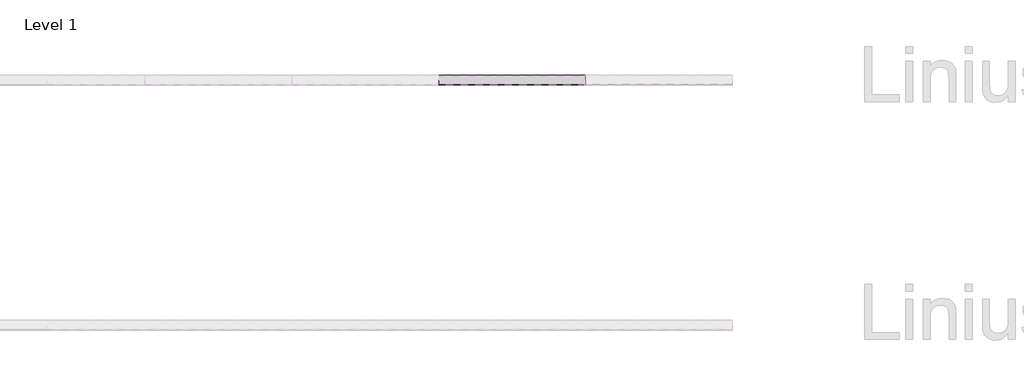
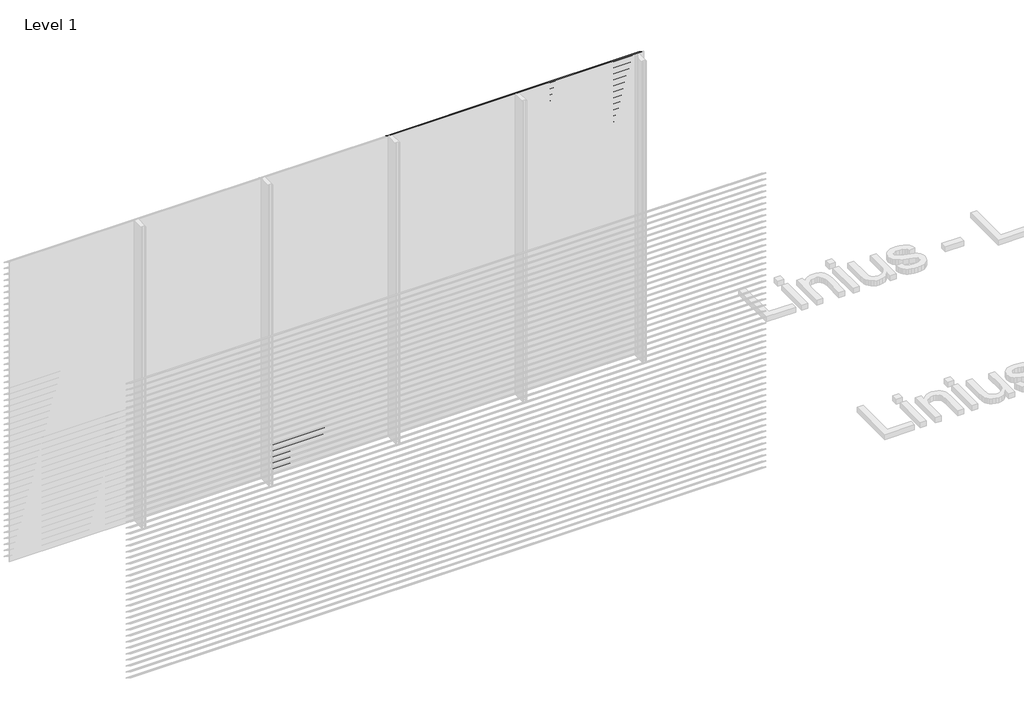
# One storey, part 16 of 153: 84 proxies.
"""IFC4 building model written with IfcOpenShell, lengths in millimetres."""

from ifc_helpers import new_model, si_unit, frame, origin, place, context, project, spatial, polyline, outline, extrude, element, save

model = new_model("IFC4")

# Units and contexts
model_context = context("Model", 3, world=origin())
ifc_project = project(units=[si_unit("LENGTHUNIT", "METRE", prefix="MILLI")], contexts=[model_context])

# Site, building, storey
site = spatial("IfcSite", under=ifc_project)
building = spatial("IfcBuilding", under=site)
storey = spatial("IfcBuildingStorey", under=building, Name="Level 1", Elevation=0.0)

# Proxies
placement = place(None, origin())
element("IfcBuildingElementProxy", 1, Name="Wall Sweeps", at=placement, inside=storey, context=model_context, shape_type="SweptSolid", body=[
    extrude(outline(polyline([(14061.0540136, 246.0), (14061.0540136, 240.0), (14059.8040136, 240.7216933), (14059.8040136, 245.2538091), (13983.0540136, 293.9915103), (13983.0540136, 300.0), (13984.3040136, 300.0), (13984.3040136, 294.7377012), (14061.0540136, 246.0)])), frame((2866.6208097, 0.0, 0.0), z_axis=(1.0, 0.0, 0.0), x_axis=(0.0, 1.0, 0.0)), (0.0, 0.0, 1.0), 1199.9999999),
])
element("IfcBuildingElementProxy", 2, Name="Wall Sweeps", at=placement, inside=storey, context=model_context, shape_type="SweptSolid", body=[
    extrude(outline(polyline([(14061.0540136, 186.0), (14061.0540136, 180.0), (14059.8040136, 180.7216933), (14059.8040136, 185.2538091), (13983.0540136, 233.9915103), (13983.0540136, 240.0), (13984.3040136, 240.0), (13984.3040136, 234.7377012), (14061.0540136, 186.0)])), frame((2866.6208097, 0.0, 0.0), z_axis=(1.0, 0.0, 0.0), x_axis=(0.0, 1.0, 0.0)), (0.0, 0.0, 1.0), 1199.9999999),
])
element("IfcBuildingElementProxy", 3, Name="Wall Sweeps", at=placement, inside=storey, context=model_context, shape_type="SweptSolid", body=[
    extrude(outline(polyline([(14061.0540136, 126.0), (14061.0540136, 120.0), (14059.8040136, 120.7216933), (14059.8040136, 125.2538091), (13983.0540136, 173.9915103), (13983.0540136, 180.0), (13984.3040136, 180.0), (13984.3040136, 174.7377012), (14061.0540136, 126.0)])), frame((2866.6208097, 0.0, 0.0), z_axis=(1.0, 0.0, 0.0), x_axis=(0.0, 1.0, 0.0)), (0.0, 0.0, 1.0), 1199.9999999),
])
element("IfcBuildingElementProxy", 4, Name="Wall Sweeps", at=placement, inside=storey, context=model_context, shape_type="SweptSolid", body=[
    extrude(outline(polyline([(14061.0540136, 66.0), (14061.0540136, 60.0), (14059.8040136, 60.7216933), (14059.8040136, 65.2538091), (13983.0540136, 113.9915103), (13983.0540136, 120.0), (13984.3040136, 120.0), (13984.3040136, 114.7377012), (14061.0540136, 66.0)])), frame((2866.6208097, 0.0, 0.0), z_axis=(1.0, 0.0, 0.0), x_axis=(0.0, 1.0, 0.0)), (0.0, 0.0, 1.0), 1199.9999999),
])
element("IfcBuildingElementProxy", 5, Name="Wall Sweeps", at=placement, inside=storey, context=model_context, shape_type="SweptSolid", body=[
    extrude(outline(polyline([(14061.0540136, 6.0), (14061.0540136, 0.0), (14059.8040136, 0.7216933), (14059.8040136, 5.2538091), (13983.0540136, 53.9915103), (13983.0540136, 60.0), (13984.3040136, 60.0), (13984.3040136, 54.7377012), (14061.0540136, 6.0)])), frame((2866.6208097, 0.0, 0.0), z_axis=(1.0, 0.0, 0.0), x_axis=(0.0, 1.0, 0.0)), (0.0, 0.0, 1.0), 1199.9999999),
])
element("IfcBuildingElementProxy", 6, Name="Wall Sweeps", at=placement, inside=storey, context=model_context, shape_type="SweptSolid", body=[
    extrude(outline(polyline([(14061.0540136, 2946.0), (14061.0540136, 2940.0), (14059.8040136, 2940.7216933), (14059.8040136, 2945.2538091), (13983.0540136, 2993.9915103), (13983.0540136, 3000.0), (13984.3040136, 3000.0), (13984.3040136, 2994.7377012), (14061.0540136, 2946.0)])), frame((4066.6208096, 0.0, 0.0), z_axis=(1.0, 0.0, 0.0), x_axis=(0.0, 1.0, 0.0)), (0.0, 0.0, 1.0), 1199.9999999),
])
element("IfcBuildingElementProxy", 7, Name="Wall Sweeps", at=placement, inside=storey, context=model_context, shape_type="SweptSolid", body=[
    extrude(outline(polyline([(14061.0540136, 2886.0), (14061.0540136, 2880.0), (14059.8040136, 2880.7216933), (14059.8040136, 2885.2538091), (13983.0540136, 2933.9915103), (13983.0540136, 2940.0), (13984.3040136, 2940.0), (13984.3040136, 2934.7377012), (14061.0540136, 2886.0)])), frame((4066.6208096, 0.0, 0.0), z_axis=(1.0, 0.0, 0.0), x_axis=(0.0, 1.0, 0.0)), (0.0, 0.0, 1.0), 1199.9999999),
])
element("IfcBuildingElementProxy", 8, Name="Wall Sweeps", at=placement, inside=storey, context=model_context, shape_type="SweptSolid", body=[
    extrude(outline(polyline([(14061.0540136, 2826.0), (14061.0540136, 2820.0), (14059.8040136, 2820.7216933), (14059.8040136, 2825.2538091), (13983.0540136, 2873.9915103), (13983.0540136, 2880.0), (13984.3040136, 2880.0), (13984.3040136, 2874.7377012), (14061.0540136, 2826.0)])), frame((4066.6208096, 0.0, 0.0), z_axis=(1.0, 0.0, 0.0), x_axis=(0.0, 1.0, 0.0)), (0.0, 0.0, 1.0), 1199.9999999),
])
element("IfcBuildingElementProxy", 9, Name="Wall Sweeps", at=placement, inside=storey, context=model_context, shape_type="SweptSolid", body=[
    extrude(outline(polyline([(14061.0540136, 2766.0), (14061.0540136, 2760.0), (14059.8040136, 2760.7216933), (14059.8040136, 2765.2538091), (13983.0540136, 2813.9915103), (13983.0540136, 2820.0), (13984.3040136, 2820.0), (13984.3040136, 2814.7377012), (14061.0540136, 2766.0)])), frame((4066.6208096, 0.0, 0.0), z_axis=(1.0, 0.0, 0.0), x_axis=(0.0, 1.0, 0.0)), (0.0, 0.0, 1.0), 1199.9999999),
])
element("IfcBuildingElementProxy", 10, Name="Wall Sweeps", at=placement, inside=storey, context=model_context, shape_type="SweptSolid", body=[
    extrude(outline(polyline([(14061.0540136, 2706.0), (14061.0540136, 2700.0), (14059.8040136, 2700.7216933), (14059.8040136, 2705.2538091), (13983.0540136, 2753.9915103), (13983.0540136, 2760.0), (13984.3040136, 2760.0), (13984.3040136, 2754.7377012), (14061.0540136, 2706.0)])), frame((4066.6208096, 0.0, 0.0), z_axis=(1.0, 0.0, 0.0), x_axis=(0.0, 1.0, 0.0)), (0.0, 0.0, 1.0), 1199.9999999),
])
element("IfcBuildingElementProxy", 11, Name="Wall Sweeps", at=placement, inside=storey, context=model_context, shape_type="SweptSolid", body=[
    extrude(outline(polyline([(14061.0540136, 2646.0), (14061.0540136, 2640.0), (14059.8040136, 2640.7216933), (14059.8040136, 2645.2538091), (13983.0540136, 2693.9915103), (13983.0540136, 2700.0), (13984.3040136, 2700.0), (13984.3040136, 2694.7377012), (14061.0540136, 2646.0)])), frame((4066.6208096, 0.0, 0.0), z_axis=(1.0, 0.0, 0.0), x_axis=(0.0, 1.0, 0.0)), (0.0, 0.0, 1.0), 1199.9999999),
])
element("IfcBuildingElementProxy", 12, Name="Wall Sweeps", at=placement, inside=storey, context=model_context, shape_type="SweptSolid", body=[
    extrude(outline(polyline([(14061.0540136, 2586.0), (14061.0540136, 2580.0), (14059.8040136, 2580.7216933), (14059.8040136, 2585.2538091), (13983.0540136, 2633.9915103), (13983.0540136, 2640.0), (13984.3040136, 2640.0), (13984.3040136, 2634.7377012), (14061.0540136, 2586.0)])), frame((4066.6208096, 0.0, 0.0), z_axis=(1.0, 0.0, 0.0), x_axis=(0.0, 1.0, 0.0)), (0.0, 0.0, 1.0), 1199.9999999),
])
element("IfcBuildingElementProxy", 13, Name="Wall Sweeps", at=placement, inside=storey, context=model_context, shape_type="SweptSolid", body=[
    extrude(outline(polyline([(14061.0540136, 2526.0), (14061.0540136, 2520.0), (14059.8040136, 2520.7216933), (14059.8040136, 2525.2538091), (13983.0540136, 2573.9915103), (13983.0540136, 2580.0), (13984.3040136, 2580.0), (13984.3040136, 2574.7377012), (14061.0540136, 2526.0)])), frame((4066.6208096, 0.0, 0.0), z_axis=(1.0, 0.0, 0.0), x_axis=(0.0, 1.0, 0.0)), (0.0, 0.0, 1.0), 1199.9999999),
])
element("IfcBuildingElementProxy", 14, Name="Wall Sweeps", at=placement, inside=storey, context=model_context, shape_type="SweptSolid", body=[
    extrude(outline(polyline([(14061.0540136, 2466.0), (14061.0540136, 2460.0), (14059.8040136, 2460.7216933), (14059.8040136, 2465.2538091), (13983.0540136, 2513.9915103), (13983.0540136, 2520.0), (13984.3040136, 2520.0), (13984.3040136, 2514.7377012), (14061.0540136, 2466.0)])), frame((4066.6208096, 0.0, 0.0), z_axis=(1.0, 0.0, 0.0), x_axis=(0.0, 1.0, 0.0)), (0.0, 0.0, 1.0), 1199.9999999),
])
element("IfcBuildingElementProxy", 15, Name="Wall Sweeps", at=placement, inside=storey, context=model_context, shape_type="SweptSolid", body=[
    extrude(outline(polyline([(14061.0540136, 2406.0), (14061.0540136, 2400.0), (14059.8040136, 2400.7216933), (14059.8040136, 2405.2538091), (13983.0540136, 2453.9915103), (13983.0540136, 2460.0), (13984.3040136, 2460.0), (13984.3040136, 2454.7377012), (14061.0540136, 2406.0)])), frame((4066.6208096, 0.0, 0.0), z_axis=(1.0, 0.0, 0.0), x_axis=(0.0, 1.0, 0.0)), (0.0, 0.0, 1.0), 1199.9999999),
])
element("IfcBuildingElementProxy", 16, Name="Wall Sweeps", at=placement, inside=storey, context=model_context, shape_type="SweptSolid", body=[
    extrude(outline(polyline([(14061.0540136, 2346.0), (14061.0540136, 2340.0), (14059.8040136, 2340.7216933), (14059.8040136, 2345.2538091), (13983.0540136, 2393.9915103), (13983.0540136, 2400.0), (13984.3040136, 2400.0), (13984.3040136, 2394.7377012), (14061.0540136, 2346.0)])), frame((4066.6208096, 0.0, 0.0), z_axis=(1.0, 0.0, 0.0), x_axis=(0.0, 1.0, 0.0)), (0.0, 0.0, 1.0), 1199.9999999),
])
element("IfcBuildingElementProxy", 17, Name="Wall Sweeps", at=placement, inside=storey, context=model_context, shape_type="SweptSolid", body=[
    extrude(outline(polyline([(14061.0540136, 2286.0), (14061.0540136, 2280.0), (14059.8040136, 2280.7216933), (14059.8040136, 2285.2538091), (13983.0540136, 2333.9915103), (13983.0540136, 2340.0), (13984.3040136, 2340.0), (13984.3040136, 2334.7377012), (14061.0540136, 2286.0)])), frame((4066.6208096, 0.0, 0.0), z_axis=(1.0, 0.0, 0.0), x_axis=(0.0, 1.0, 0.0)), (0.0, 0.0, 1.0), 1199.9999999),
])
element("IfcBuildingElementProxy", 18, Name="Wall Sweeps", at=placement, inside=storey, context=model_context, shape_type="SweptSolid", body=[
    extrude(outline(polyline([(14061.0540136, 2226.0), (14061.0540136, 2220.0), (14059.8040136, 2220.7216933), (14059.8040136, 2225.2538091), (13983.0540136, 2273.9915103), (13983.0540136, 2280.0), (13984.3040136, 2280.0), (13984.3040136, 2274.7377012), (14061.0540136, 2226.0)])), frame((4066.6208096, 0.0, 0.0), z_axis=(1.0, 0.0, 0.0), x_axis=(0.0, 1.0, 0.0)), (0.0, 0.0, 1.0), 1199.9999999),
])
element("IfcBuildingElementProxy", 19, Name="Wall Sweeps", at=placement, inside=storey, context=model_context, shape_type="SweptSolid", body=[
    extrude(outline(polyline([(14061.0540136, 2166.0), (14061.0540136, 2160.0), (14059.8040136, 2160.7216933), (14059.8040136, 2165.2538091), (13983.0540136, 2213.9915103), (13983.0540136, 2220.0), (13984.3040136, 2220.0), (13984.3040136, 2214.7377012), (14061.0540136, 2166.0)])), frame((4066.6208096, 0.0, 0.0), z_axis=(1.0, 0.0, 0.0), x_axis=(0.0, 1.0, 0.0)), (0.0, 0.0, 1.0), 1199.9999999),
])
element("IfcBuildingElementProxy", 20, Name="Wall Sweeps", at=placement, inside=storey, context=model_context, shape_type="SweptSolid", body=[
    extrude(outline(polyline([(14061.0540136, 2106.0), (14061.0540136, 2100.0), (14059.8040136, 2100.7216933), (14059.8040136, 2105.2538091), (13983.0540136, 2153.9915103), (13983.0540136, 2160.0), (13984.3040136, 2160.0), (13984.3040136, 2154.7377012), (14061.0540136, 2106.0)])), frame((4066.6208096, 0.0, 0.0), z_axis=(1.0, 0.0, 0.0), x_axis=(0.0, 1.0, 0.0)), (0.0, 0.0, 1.0), 1199.9999999),
])
element("IfcBuildingElementProxy", 21, Name="Wall Sweeps", at=placement, inside=storey, context=model_context, shape_type="SweptSolid", body=[
    extrude(outline(polyline([(14061.0540136, 2046.0), (14061.0540136, 2040.0), (14059.8040136, 2040.7216933), (14059.8040136, 2045.2538091), (13983.0540136, 2093.9915103), (13983.0540136, 2100.0), (13984.3040136, 2100.0), (13984.3040136, 2094.7377012), (14061.0540136, 2046.0)])), frame((4066.6208096, 0.0, 0.0), z_axis=(1.0, 0.0, 0.0), x_axis=(0.0, 1.0, 0.0)), (0.0, 0.0, 1.0), 1199.9999999),
])
element("IfcBuildingElementProxy", 22, Name="Wall Sweeps", at=placement, inside=storey, context=model_context, shape_type="SweptSolid", body=[
    extrude(outline(polyline([(14061.0540136, 1986.0), (14061.0540136, 1980.0), (14059.8040136, 1980.7216933), (14059.8040136, 1985.2538091), (13983.0540136, 2033.9915103), (13983.0540136, 2040.0), (13984.3040136, 2040.0), (13984.3040136, 2034.7377012), (14061.0540136, 1986.0)])), frame((4066.6208096, 0.0, 0.0), z_axis=(1.0, 0.0, 0.0), x_axis=(0.0, 1.0, 0.0)), (0.0, 0.0, 1.0), 1199.9999999),
])
element("IfcBuildingElementProxy", 23, Name="Wall Sweeps", at=placement, inside=storey, context=model_context, shape_type="SweptSolid", body=[
    extrude(outline(polyline([(14061.0540136, 1926.0), (14061.0540136, 1920.0), (14059.8040136, 1920.7216933), (14059.8040136, 1925.2538091), (13983.0540136, 1973.9915103), (13983.0540136, 1980.0), (13984.3040136, 1980.0), (13984.3040136, 1974.7377012), (14061.0540136, 1926.0)])), frame((4066.6208096, 0.0, 0.0), z_axis=(1.0, 0.0, 0.0), x_axis=(0.0, 1.0, 0.0)), (0.0, 0.0, 1.0), 1199.9999999),
])
element("IfcBuildingElementProxy", 24, Name="Wall Sweeps", at=placement, inside=storey, context=model_context, shape_type="SweptSolid", body=[
    extrude(outline(polyline([(14061.0540136, 1866.0), (14061.0540136, 1860.0), (14059.8040136, 1860.7216933), (14059.8040136, 1865.2538091), (13983.0540136, 1913.9915103), (13983.0540136, 1920.0), (13984.3040136, 1920.0), (13984.3040136, 1914.7377012), (14061.0540136, 1866.0)])), frame((4066.6208096, 0.0, 0.0), z_axis=(1.0, 0.0, 0.0), x_axis=(0.0, 1.0, 0.0)), (0.0, 0.0, 1.0), 1199.9999999),
])
element("IfcBuildingElementProxy", 25, Name="Wall Sweeps", at=placement, inside=storey, context=model_context, shape_type="SweptSolid", body=[
    extrude(outline(polyline([(14061.0540136, 1806.0), (14061.0540136, 1800.0), (14059.8040136, 1800.7216933), (14059.8040136, 1805.2538091), (13983.0540136, 1853.9915103), (13983.0540136, 1860.0), (13984.3040136, 1860.0), (13984.3040136, 1854.7377012), (14061.0540136, 1806.0)])), frame((4066.6208096, 0.0, 0.0), z_axis=(1.0, 0.0, 0.0), x_axis=(0.0, 1.0, 0.0)), (0.0, 0.0, 1.0), 1199.9999999),
])
element("IfcBuildingElementProxy", 26, Name="Wall Sweeps", at=placement, inside=storey, context=model_context, shape_type="SweptSolid", body=[
    extrude(outline(polyline([(14061.0540136, 1746.0), (14061.0540136, 1740.0), (14059.8040136, 1740.7216933), (14059.8040136, 1745.2538091), (13983.0540136, 1793.9915103), (13983.0540136, 1800.0), (13984.3040136, 1800.0), (13984.3040136, 1794.7377012), (14061.0540136, 1746.0)])), frame((4066.6208096, 0.0, 0.0), z_axis=(1.0, 0.0, 0.0), x_axis=(0.0, 1.0, 0.0)), (0.0, 0.0, 1.0), 1199.9999999),
])
element("IfcBuildingElementProxy", 27, Name="Wall Sweeps", at=placement, inside=storey, context=model_context, shape_type="SweptSolid", body=[
    extrude(outline(polyline([(14061.0540136, 1686.0), (14061.0540136, 1680.0), (14059.8040136, 1680.7216933), (14059.8040136, 1685.2538091), (13983.0540136, 1733.9915103), (13983.0540136, 1740.0), (13984.3040136, 1740.0), (13984.3040136, 1734.7377012), (14061.0540136, 1686.0)])), frame((4066.6208096, 0.0, 0.0), z_axis=(1.0, 0.0, 0.0), x_axis=(0.0, 1.0, 0.0)), (0.0, 0.0, 1.0), 1199.9999999),
])
element("IfcBuildingElementProxy", 28, Name="Wall Sweeps", at=placement, inside=storey, context=model_context, shape_type="SweptSolid", body=[
    extrude(outline(polyline([(14061.0540136, 1626.0), (14061.0540136, 1620.0), (14059.8040136, 1620.7216933), (14059.8040136, 1625.2538091), (13983.0540136, 1673.9915103), (13983.0540136, 1680.0), (13984.3040136, 1680.0), (13984.3040136, 1674.7377012), (14061.0540136, 1626.0)])), frame((4066.6208096, 0.0, 0.0), z_axis=(1.0, 0.0, 0.0), x_axis=(0.0, 1.0, 0.0)), (0.0, 0.0, 1.0), 1199.9999999),
])
element("IfcBuildingElementProxy", 29, Name="Wall Sweeps", at=placement, inside=storey, context=model_context, shape_type="SweptSolid", body=[
    extrude(outline(polyline([(14061.0540136, 1566.0), (14061.0540136, 1560.0), (14059.8040136, 1560.7216933), (14059.8040136, 1565.2538091), (13983.0540136, 1613.9915103), (13983.0540136, 1620.0), (13984.3040136, 1620.0), (13984.3040136, 1614.7377012), (14061.0540136, 1566.0)])), frame((4066.6208096, 0.0, 0.0), z_axis=(1.0, 0.0, 0.0), x_axis=(0.0, 1.0, 0.0)), (0.0, 0.0, 1.0), 1199.9999999),
])
element("IfcBuildingElementProxy", 30, Name="Wall Sweeps", at=placement, inside=storey, context=model_context, shape_type="SweptSolid", body=[
    extrude(outline(polyline([(14061.0540136, 1506.0), (14061.0540136, 1500.0), (14059.8040136, 1500.7216933), (14059.8040136, 1505.2538091), (13983.0540136, 1553.9915103), (13983.0540136, 1560.0), (13984.3040136, 1560.0), (13984.3040136, 1554.7377012), (14061.0540136, 1506.0)])), frame((4066.6208096, 0.0, 0.0), z_axis=(1.0, 0.0, 0.0), x_axis=(0.0, 1.0, 0.0)), (0.0, 0.0, 1.0), 1199.9999999),
])
element("IfcBuildingElementProxy", 31, Name="Wall Sweeps", at=placement, inside=storey, context=model_context, shape_type="SweptSolid", body=[
    extrude(outline(polyline([(14061.0540136, 1446.0), (14061.0540136, 1440.0), (14059.8040136, 1440.7216933), (14059.8040136, 1445.2538091), (13983.0540136, 1493.9915103), (13983.0540136, 1500.0), (13984.3040136, 1500.0), (13984.3040136, 1494.7377012), (14061.0540136, 1446.0)])), frame((4066.6208096, 0.0, 0.0), z_axis=(1.0, 0.0, 0.0), x_axis=(0.0, 1.0, 0.0)), (0.0, 0.0, 1.0), 1199.9999999),
])
element("IfcBuildingElementProxy", 32, Name="Wall Sweeps", at=placement, inside=storey, context=model_context, shape_type="SweptSolid", body=[
    extrude(outline(polyline([(14061.0540136, 1386.0), (14061.0540136, 1380.0), (14059.8040136, 1380.7216933), (14059.8040136, 1385.2538091), (13983.0540136, 1433.9915103), (13983.0540136, 1440.0), (13984.3040136, 1440.0), (13984.3040136, 1434.7377012), (14061.0540136, 1386.0)])), frame((4066.6208096, 0.0, 0.0), z_axis=(1.0, 0.0, 0.0), x_axis=(0.0, 1.0, 0.0)), (0.0, 0.0, 1.0), 1199.9999999),
])
element("IfcBuildingElementProxy", 33, Name="Wall Sweeps", at=placement, inside=storey, context=model_context, shape_type="SweptSolid", body=[
    extrude(outline(polyline([(14061.0540136, 1326.0), (14061.0540136, 1320.0), (14059.8040136, 1320.7216933), (14059.8040136, 1325.2538091), (13983.0540136, 1373.9915103), (13983.0540136, 1380.0), (13984.3040136, 1380.0), (13984.3040136, 1374.7377012), (14061.0540136, 1326.0)])), frame((4066.6208096, 0.0, 0.0), z_axis=(1.0, 0.0, 0.0), x_axis=(0.0, 1.0, 0.0)), (0.0, 0.0, 1.0), 1199.9999999),
])
element("IfcBuildingElementProxy", 34, Name="Wall Sweeps", at=placement, inside=storey, context=model_context, shape_type="SweptSolid", body=[
    extrude(outline(polyline([(14061.0540136, 1266.0), (14061.0540136, 1260.0), (14059.8040136, 1260.7216933), (14059.8040136, 1265.2538091), (13983.0540136, 1313.9915103), (13983.0540136, 1320.0), (13984.3040136, 1320.0), (13984.3040136, 1314.7377012), (14061.0540136, 1266.0)])), frame((4066.6208096, 0.0, 0.0), z_axis=(1.0, 0.0, 0.0), x_axis=(0.0, 1.0, 0.0)), (0.0, 0.0, 1.0), 1199.9999999),
])
element("IfcBuildingElementProxy", 35, Name="Wall Sweeps", at=placement, inside=storey, context=model_context, shape_type="SweptSolid", body=[
    extrude(outline(polyline([(14061.0540136, 1206.0), (14061.0540136, 1200.0), (14059.8040136, 1200.7216933), (14059.8040136, 1205.2538091), (13983.0540136, 1253.9915103), (13983.0540136, 1260.0), (13984.3040136, 1260.0), (13984.3040136, 1254.7377012), (14061.0540136, 1206.0)])), frame((4066.6208096, 0.0, 0.0), z_axis=(1.0, 0.0, 0.0), x_axis=(0.0, 1.0, 0.0)), (0.0, 0.0, 1.0), 1199.9999999),
])
element("IfcBuildingElementProxy", 36, Name="Wall Sweeps", at=placement, inside=storey, context=model_context, shape_type="SweptSolid", body=[
    extrude(outline(polyline([(14061.0540136, 1146.0), (14061.0540136, 1140.0), (14059.8040136, 1140.7216933), (14059.8040136, 1145.2538091), (13983.0540136, 1193.9915103), (13983.0540136, 1200.0), (13984.3040136, 1200.0), (13984.3040136, 1194.7377012), (14061.0540136, 1146.0)])), frame((4066.6208096, 0.0, 0.0), z_axis=(1.0, 0.0, 0.0), x_axis=(0.0, 1.0, 0.0)), (0.0, 0.0, 1.0), 1199.9999999),
])
element("IfcBuildingElementProxy", 37, Name="Wall Sweeps", at=placement, inside=storey, context=model_context, shape_type="SweptSolid", body=[
    extrude(outline(polyline([(14061.0540136, 1086.0), (14061.0540136, 1080.0), (14059.8040136, 1080.7216933), (14059.8040136, 1085.2538091), (13983.0540136, 1133.9915103), (13983.0540136, 1140.0), (13984.3040136, 1140.0), (13984.3040136, 1134.7377012), (14061.0540136, 1086.0)])), frame((4066.6208096, 0.0, 0.0), z_axis=(1.0, 0.0, 0.0), x_axis=(0.0, 1.0, 0.0)), (0.0, 0.0, 1.0), 1199.9999999),
])
element("IfcBuildingElementProxy", 38, Name="Wall Sweeps", at=placement, inside=storey, context=model_context, shape_type="SweptSolid", body=[
    extrude(outline(polyline([(14061.0540136, 1026.0), (14061.0540136, 1020.0), (14059.8040136, 1020.7216933), (14059.8040136, 1025.2538091), (13983.0540136, 1073.9915103), (13983.0540136, 1080.0), (13984.3040136, 1080.0), (13984.3040136, 1074.7377012), (14061.0540136, 1026.0)])), frame((4066.6208096, 0.0, 0.0), z_axis=(1.0, 0.0, 0.0), x_axis=(0.0, 1.0, 0.0)), (0.0, 0.0, 1.0), 1199.9999999),
])
element("IfcBuildingElementProxy", 39, Name="Wall Sweeps", at=placement, inside=storey, context=model_context, shape_type="SweptSolid", body=[
    extrude(outline(polyline([(14061.0540136, 966.0), (14061.0540136, 960.0), (14059.8040136, 960.7216933), (14059.8040136, 965.2538091), (13983.0540136, 1013.9915103), (13983.0540136, 1020.0), (13984.3040136, 1020.0), (13984.3040136, 1014.7377012), (14061.0540136, 966.0)])), frame((4066.6208096, 0.0, 0.0), z_axis=(1.0, 0.0, 0.0), x_axis=(0.0, 1.0, 0.0)), (0.0, 0.0, 1.0), 1199.9999999),
])
element("IfcBuildingElementProxy", 40, Name="Wall Sweeps", at=placement, inside=storey, context=model_context, shape_type="SweptSolid", body=[
    extrude(outline(polyline([(14061.0540136, 906.0), (14061.0540136, 900.0), (14059.8040136, 900.7216933), (14059.8040136, 905.2538091), (13983.0540136, 953.9915103), (13983.0540136, 960.0), (13984.3040136, 960.0), (13984.3040136, 954.7377012), (14061.0540136, 906.0)])), frame((4066.6208096, 0.0, 0.0), z_axis=(1.0, 0.0, 0.0), x_axis=(0.0, 1.0, 0.0)), (0.0, 0.0, 1.0), 1199.9999999),
])
element("IfcBuildingElementProxy", 41, Name="Wall Sweeps", at=placement, inside=storey, context=model_context, shape_type="SweptSolid", body=[
    extrude(outline(polyline([(14061.0540136, 846.0), (14061.0540136, 840.0), (14059.8040136, 840.7216933), (14059.8040136, 845.2538091), (13983.0540136, 893.9915103), (13983.0540136, 900.0), (13984.3040136, 900.0), (13984.3040136, 894.7377012), (14061.0540136, 846.0)])), frame((4066.6208096, 0.0, 0.0), z_axis=(1.0, 0.0, 0.0), x_axis=(0.0, 1.0, 0.0)), (0.0, 0.0, 1.0), 1199.9999999),
])
element("IfcBuildingElementProxy", 42, Name="Wall Sweeps", at=placement, inside=storey, context=model_context, shape_type="SweptSolid", body=[
    extrude(outline(polyline([(14061.0540136, 786.0), (14061.0540136, 780.0), (14059.8040136, 780.7216933), (14059.8040136, 785.2538091), (13983.0540136, 833.9915103), (13983.0540136, 840.0), (13984.3040136, 840.0), (13984.3040136, 834.7377012), (14061.0540136, 786.0)])), frame((4066.6208096, 0.0, 0.0), z_axis=(1.0, 0.0, 0.0), x_axis=(0.0, 1.0, 0.0)), (0.0, 0.0, 1.0), 1199.9999999),
])
element("IfcBuildingElementProxy", 43, Name="Wall Sweeps", at=placement, inside=storey, context=model_context, shape_type="SweptSolid", body=[
    extrude(outline(polyline([(14061.0540136, 726.0), (14061.0540136, 720.0), (14059.8040136, 720.7216933), (14059.8040136, 725.2538091), (13983.0540136, 773.9915103), (13983.0540136, 780.0), (13984.3040136, 780.0), (13984.3040136, 774.7377012), (14061.0540136, 726.0)])), frame((4066.6208096, 0.0, 0.0), z_axis=(1.0, 0.0, 0.0), x_axis=(0.0, 1.0, 0.0)), (0.0, 0.0, 1.0), 1199.9999999),
])
element("IfcBuildingElementProxy", 44, Name="Wall Sweeps", at=placement, inside=storey, context=model_context, shape_type="SweptSolid", body=[
    extrude(outline(polyline([(14061.0540136, 666.0), (14061.0540136, 660.0), (14059.8040136, 660.7216933), (14059.8040136, 665.2538091), (13983.0540136, 713.9915103), (13983.0540136, 720.0), (13984.3040136, 720.0), (13984.3040136, 714.7377012), (14061.0540136, 666.0)])), frame((4066.6208096, 0.0, 0.0), z_axis=(1.0, 0.0, 0.0), x_axis=(0.0, 1.0, 0.0)), (0.0, 0.0, 1.0), 1199.9999999),
])
element("IfcBuildingElementProxy", 45, Name="Wall Sweeps", at=placement, inside=storey, context=model_context, shape_type="SweptSolid", body=[
    extrude(outline(polyline([(14061.0540136, 606.0), (14061.0540136, 600.0), (14059.8040136, 600.7216933), (14059.8040136, 605.2538091), (13983.0540136, 653.9915103), (13983.0540136, 660.0), (13984.3040136, 660.0), (13984.3040136, 654.7377012), (14061.0540136, 606.0)])), frame((4066.6208096, 0.0, 0.0), z_axis=(1.0, 0.0, 0.0), x_axis=(0.0, 1.0, 0.0)), (0.0, 0.0, 1.0), 1199.9999999),
])
element("IfcBuildingElementProxy", 46, Name="Wall Sweeps", at=placement, inside=storey, context=model_context, shape_type="SweptSolid", body=[
    extrude(outline(polyline([(14061.0540136, 546.0), (14061.0540136, 540.0), (14059.8040136, 540.7216933), (14059.8040136, 545.2538091), (13983.0540136, 593.9915103), (13983.0540136, 600.0), (13984.3040136, 600.0), (13984.3040136, 594.7377012), (14061.0540136, 546.0)])), frame((4066.6208096, 0.0, 0.0), z_axis=(1.0, 0.0, 0.0), x_axis=(0.0, 1.0, 0.0)), (0.0, 0.0, 1.0), 1199.9999999),
])
element("IfcBuildingElementProxy", 47, Name="Wall Sweeps", at=placement, inside=storey, context=model_context, shape_type="SweptSolid", body=[
    extrude(outline(polyline([(14061.0540136, 486.0), (14061.0540136, 480.0), (14059.8040136, 480.7216933), (14059.8040136, 485.2538091), (13983.0540136, 533.9915103), (13983.0540136, 540.0), (13984.3040136, 540.0), (13984.3040136, 534.7377012), (14061.0540136, 486.0)])), frame((4066.6208096, 0.0, 0.0), z_axis=(1.0, 0.0, 0.0), x_axis=(0.0, 1.0, 0.0)), (0.0, 0.0, 1.0), 1199.9999999),
])
element("IfcBuildingElementProxy", 48, Name="Wall Sweeps", at=placement, inside=storey, context=model_context, shape_type="SweptSolid", body=[
    extrude(outline(polyline([(14061.0540136, 426.0), (14061.0540136, 420.0), (14059.8040136, 420.7216933), (14059.8040136, 425.2538091), (13983.0540136, 473.9915103), (13983.0540136, 480.0), (13984.3040136, 480.0), (13984.3040136, 474.7377012), (14061.0540136, 426.0)])), frame((4066.6208096, 0.0, 0.0), z_axis=(1.0, 0.0, 0.0), x_axis=(0.0, 1.0, 0.0)), (0.0, 0.0, 1.0), 1199.9999999),
])
element("IfcBuildingElementProxy", 49, Name="Wall Sweeps", at=placement, inside=storey, context=model_context, shape_type="SweptSolid", body=[
    extrude(outline(polyline([(14061.0540136, 366.0), (14061.0540136, 360.0), (14059.8040136, 360.7216933), (14059.8040136, 365.2538091), (13983.0540136, 413.9915103), (13983.0540136, 420.0), (13984.3040136, 420.0), (13984.3040136, 414.7377012), (14061.0540136, 366.0)])), frame((4066.6208096, 0.0, 0.0), z_axis=(1.0, 0.0, 0.0), x_axis=(0.0, 1.0, 0.0)), (0.0, 0.0, 1.0), 1199.9999999),
])
element("IfcBuildingElementProxy", 50, Name="Wall Sweeps", at=placement, inside=storey, context=model_context, shape_type="SweptSolid", body=[
    extrude(outline(polyline([(14061.0540136, 306.0), (14061.0540136, 300.0), (14059.8040136, 300.7216933), (14059.8040136, 305.2538091), (13983.0540136, 353.9915103), (13983.0540136, 360.0), (13984.3040136, 360.0), (13984.3040136, 354.7377012), (14061.0540136, 306.0)])), frame((4066.6208096, 0.0, 0.0), z_axis=(1.0, 0.0, 0.0), x_axis=(0.0, 1.0, 0.0)), (0.0, 0.0, 1.0), 1199.9999999),
])
element("IfcBuildingElementProxy", 51, Name="Wall Sweeps", at=placement, inside=storey, context=model_context, shape_type="SweptSolid", body=[
    extrude(outline(polyline([(14061.0540136, 246.0), (14061.0540136, 240.0), (14059.8040136, 240.7216933), (14059.8040136, 245.2538091), (13983.0540136, 293.9915103), (13983.0540136, 300.0), (13984.3040136, 300.0), (13984.3040136, 294.7377012), (14061.0540136, 246.0)])), frame((4066.6208096, 0.0, 0.0), z_axis=(1.0, 0.0, 0.0), x_axis=(0.0, 1.0, 0.0)), (0.0, 0.0, 1.0), 1199.9999999),
])
element("IfcBuildingElementProxy", 52, Name="Wall Sweeps", at=placement, inside=storey, context=model_context, shape_type="SweptSolid", body=[
    extrude(outline(polyline([(14061.0540136, 186.0), (14061.0540136, 180.0), (14059.8040136, 180.7216933), (14059.8040136, 185.2538091), (13983.0540136, 233.9915103), (13983.0540136, 240.0), (13984.3040136, 240.0), (13984.3040136, 234.7377012), (14061.0540136, 186.0)])), frame((4066.6208096, 0.0, 0.0), z_axis=(1.0, 0.0, 0.0), x_axis=(0.0, 1.0, 0.0)), (0.0, 0.0, 1.0), 1199.9999999),
])
element("IfcBuildingElementProxy", 53, Name="Wall Sweeps", at=placement, inside=storey, context=model_context, shape_type="SweptSolid", body=[
    extrude(outline(polyline([(14061.0540136, 126.0), (14061.0540136, 120.0), (14059.8040136, 120.7216933), (14059.8040136, 125.2538091), (13983.0540136, 173.9915103), (13983.0540136, 180.0), (13984.3040136, 180.0), (13984.3040136, 174.7377012), (14061.0540136, 126.0)])), frame((4066.6208096, 0.0, 0.0), z_axis=(1.0, 0.0, 0.0), x_axis=(0.0, 1.0, 0.0)), (0.0, 0.0, 1.0), 1199.9999999),
])
element("IfcBuildingElementProxy", 54, Name="Wall Sweeps", at=placement, inside=storey, context=model_context, shape_type="SweptSolid", body=[
    extrude(outline(polyline([(14061.0540136, 66.0), (14061.0540136, 60.0), (14059.8040136, 60.7216933), (14059.8040136, 65.2538091), (13983.0540136, 113.9915103), (13983.0540136, 120.0), (13984.3040136, 120.0), (13984.3040136, 114.7377012), (14061.0540136, 66.0)])), frame((4066.6208096, 0.0, 0.0), z_axis=(1.0, 0.0, 0.0), x_axis=(0.0, 1.0, 0.0)), (0.0, 0.0, 1.0), 1199.9999999),
])
element("IfcBuildingElementProxy", 55, Name="Wall Sweeps", at=placement, inside=storey, context=model_context, shape_type="SweptSolid", body=[
    extrude(outline(polyline([(14061.0540136, 6.0), (14061.0540136, 0.0), (14059.8040136, 0.7216933), (14059.8040136, 5.2538091), (13983.0540136, 53.9915103), (13983.0540136, 60.0), (13984.3040136, 60.0), (13984.3040136, 54.7377012), (14061.0540136, 6.0)])), frame((4066.6208096, 0.0, 0.0), z_axis=(1.0, 0.0, 0.0), x_axis=(0.0, 1.0, 0.0)), (0.0, 0.0, 1.0), 1199.9999999),
])
element("IfcBuildingElementProxy", 56, Name="Wall Sweeps", at=placement, inside=storey, context=model_context, shape_type="SweptSolid", body=[
    extrude(outline(polyline([(14061.0540136, 2946.0), (14061.0540136, 2940.0), (14059.8040136, 2940.7216933), (14059.8040136, 2945.2538091), (13983.0540136, 2993.9915103), (13983.0540136, 3000.0), (13984.3040136, 3000.0), (13984.3040136, 2994.7377012), (14061.0540136, 2946.0)])), frame((5266.6208095, 0.0, 0.0), z_axis=(1.0, 0.0, 0.0), x_axis=(0.0, 1.0, 0.0)), (0.0, 0.0, 1.0), 1200.0000002),
])
element("IfcBuildingElementProxy", 57, Name="Wall Sweeps", at=placement, inside=storey, context=model_context, shape_type="SweptSolid", body=[
    extrude(outline(polyline([(14061.0540136, 2886.0), (14061.0540136, 2880.0), (14059.8040136, 2880.7216933), (14059.8040136, 2885.2538091), (13983.0540136, 2933.9915103), (13983.0540136, 2940.0), (13984.3040136, 2940.0), (13984.3040136, 2934.7377012), (14061.0540136, 2886.0)])), frame((5266.6208095, 0.0, 0.0), z_axis=(1.0, 0.0, 0.0), x_axis=(0.0, 1.0, 0.0)), (0.0, 0.0, 1.0), 1200.0000002),
])
element("IfcBuildingElementProxy", 58, Name="Wall Sweeps", at=placement, inside=storey, context=model_context, shape_type="SweptSolid", body=[
    extrude(outline(polyline([(14061.0540136, 2826.0), (14061.0540136, 2820.0), (14059.8040136, 2820.7216933), (14059.8040136, 2825.2538091), (13983.0540136, 2873.9915103), (13983.0540136, 2880.0), (13984.3040136, 2880.0), (13984.3040136, 2874.7377012), (14061.0540136, 2826.0)])), frame((5266.6208095, 0.0, 0.0), z_axis=(1.0, 0.0, 0.0), x_axis=(0.0, 1.0, 0.0)), (0.0, 0.0, 1.0), 1200.0000002),
])
element("IfcBuildingElementProxy", 59, Name="Wall Sweeps", at=placement, inside=storey, context=model_context, shape_type="SweptSolid", body=[
    extrude(outline(polyline([(14061.0540136, 2766.0), (14061.0540136, 2760.0), (14059.8040136, 2760.7216933), (14059.8040136, 2765.2538091), (13983.0540136, 2813.9915103), (13983.0540136, 2820.0), (13984.3040136, 2820.0), (13984.3040136, 2814.7377012), (14061.0540136, 2766.0)])), frame((5266.6208095, 0.0, 0.0), z_axis=(1.0, 0.0, 0.0), x_axis=(0.0, 1.0, 0.0)), (0.0, 0.0, 1.0), 1200.0000002),
])
element("IfcBuildingElementProxy", 60, Name="Wall Sweeps", at=placement, inside=storey, context=model_context, shape_type="SweptSolid", body=[
    extrude(outline(polyline([(14061.0540136, 2706.0), (14061.0540136, 2700.0), (14059.8040136, 2700.7216933), (14059.8040136, 2705.2538091), (13983.0540136, 2753.9915103), (13983.0540136, 2760.0), (13984.3040136, 2760.0), (13984.3040136, 2754.7377012), (14061.0540136, 2706.0)])), frame((5266.6208095, 0.0, 0.0), z_axis=(1.0, 0.0, 0.0), x_axis=(0.0, 1.0, 0.0)), (0.0, 0.0, 1.0), 1200.0000002),
])
element("IfcBuildingElementProxy", 61, Name="Wall Sweeps", at=placement, inside=storey, context=model_context, shape_type="SweptSolid", body=[
    extrude(outline(polyline([(14061.0540136, 2646.0), (14061.0540136, 2640.0), (14059.8040136, 2640.7216933), (14059.8040136, 2645.2538091), (13983.0540136, 2693.9915103), (13983.0540136, 2700.0), (13984.3040136, 2700.0), (13984.3040136, 2694.7377012), (14061.0540136, 2646.0)])), frame((5266.6208095, 0.0, 0.0), z_axis=(1.0, 0.0, 0.0), x_axis=(0.0, 1.0, 0.0)), (0.0, 0.0, 1.0), 1200.0000002),
])
element("IfcBuildingElementProxy", 62, Name="Wall Sweeps", at=placement, inside=storey, context=model_context, shape_type="SweptSolid", body=[
    extrude(outline(polyline([(14061.0540136, 2586.0), (14061.0540136, 2580.0), (14059.8040136, 2580.7216933), (14059.8040136, 2585.2538091), (13983.0540136, 2633.9915103), (13983.0540136, 2640.0), (13984.3040136, 2640.0), (13984.3040136, 2634.7377012), (14061.0540136, 2586.0)])), frame((5266.6208095, 0.0, 0.0), z_axis=(1.0, 0.0, 0.0), x_axis=(0.0, 1.0, 0.0)), (0.0, 0.0, 1.0), 1200.0000002),
])
element("IfcBuildingElementProxy", 63, Name="Wall Sweeps", at=placement, inside=storey, context=model_context, shape_type="SweptSolid", body=[
    extrude(outline(polyline([(14061.0540136, 2526.0), (14061.0540136, 2520.0), (14059.8040136, 2520.7216933), (14059.8040136, 2525.2538091), (13983.0540136, 2573.9915103), (13983.0540136, 2580.0), (13984.3040136, 2580.0), (13984.3040136, 2574.7377012), (14061.0540136, 2526.0)])), frame((5266.6208095, 0.0, 0.0), z_axis=(1.0, 0.0, 0.0), x_axis=(0.0, 1.0, 0.0)), (0.0, 0.0, 1.0), 1200.0000002),
])
element("IfcBuildingElementProxy", 64, Name="Wall Sweeps", at=placement, inside=storey, context=model_context, shape_type="SweptSolid", body=[
    extrude(outline(polyline([(14061.0540136, 2466.0), (14061.0540136, 2460.0), (14059.8040136, 2460.7216933), (14059.8040136, 2465.2538091), (13983.0540136, 2513.9915103), (13983.0540136, 2520.0), (13984.3040136, 2520.0), (13984.3040136, 2514.7377012), (14061.0540136, 2466.0)])), frame((5266.6208095, 0.0, 0.0), z_axis=(1.0, 0.0, 0.0), x_axis=(0.0, 1.0, 0.0)), (0.0, 0.0, 1.0), 1200.0000002),
])
element("IfcBuildingElementProxy", 65, Name="Wall Sweeps", at=placement, inside=storey, context=model_context, shape_type="SweptSolid", body=[
    extrude(outline(polyline([(14061.0540136, 2406.0), (14061.0540136, 2400.0), (14059.8040136, 2400.7216933), (14059.8040136, 2405.2538091), (13983.0540136, 2453.9915103), (13983.0540136, 2460.0), (13984.3040136, 2460.0), (13984.3040136, 2454.7377012), (14061.0540136, 2406.0)])), frame((5266.6208095, 0.0, 0.0), z_axis=(1.0, 0.0, 0.0), x_axis=(0.0, 1.0, 0.0)), (0.0, 0.0, 1.0), 1200.0000002),
])
element("IfcBuildingElementProxy", 66, Name="Wall Sweeps", at=placement, inside=storey, context=model_context, shape_type="SweptSolid", body=[
    extrude(outline(polyline([(14061.0540136, 2346.0), (14061.0540136, 2340.0), (14059.8040136, 2340.7216933), (14059.8040136, 2345.2538091), (13983.0540136, 2393.9915103), (13983.0540136, 2400.0), (13984.3040136, 2400.0), (13984.3040136, 2394.7377012), (14061.0540136, 2346.0)])), frame((5266.6208095, 0.0, 0.0), z_axis=(1.0, 0.0, 0.0), x_axis=(0.0, 1.0, 0.0)), (0.0, 0.0, 1.0), 1200.0000002),
])
element("IfcBuildingElementProxy", 67, Name="Wall Sweeps", at=placement, inside=storey, context=model_context, shape_type="SweptSolid", body=[
    extrude(outline(polyline([(14061.0540136, 2286.0), (14061.0540136, 2280.0), (14059.8040136, 2280.7216933), (14059.8040136, 2285.2538091), (13983.0540136, 2333.9915103), (13983.0540136, 2340.0), (13984.3040136, 2340.0), (13984.3040136, 2334.7377012), (14061.0540136, 2286.0)])), frame((5266.6208095, 0.0, 0.0), z_axis=(1.0, 0.0, 0.0), x_axis=(0.0, 1.0, 0.0)), (0.0, 0.0, 1.0), 1200.0000002),
])
element("IfcBuildingElementProxy", 68, Name="Wall Sweeps", at=placement, inside=storey, context=model_context, shape_type="SweptSolid", body=[
    extrude(outline(polyline([(14061.0540136, 2226.0), (14061.0540136, 2220.0), (14059.8040136, 2220.7216933), (14059.8040136, 2225.2538091), (13983.0540136, 2273.9915103), (13983.0540136, 2280.0), (13984.3040136, 2280.0), (13984.3040136, 2274.7377012), (14061.0540136, 2226.0)])), frame((5266.6208095, 0.0, 0.0), z_axis=(1.0, 0.0, 0.0), x_axis=(0.0, 1.0, 0.0)), (0.0, 0.0, 1.0), 1200.0000002),
])
element("IfcBuildingElementProxy", 69, Name="Wall Sweeps", at=placement, inside=storey, context=model_context, shape_type="SweptSolid", body=[
    extrude(outline(polyline([(14061.0540136, 2166.0), (14061.0540136, 2160.0), (14059.8040136, 2160.7216933), (14059.8040136, 2165.2538091), (13983.0540136, 2213.9915103), (13983.0540136, 2220.0), (13984.3040136, 2220.0), (13984.3040136, 2214.7377012), (14061.0540136, 2166.0)])), frame((5266.6208095, 0.0, 0.0), z_axis=(1.0, 0.0, 0.0), x_axis=(0.0, 1.0, 0.0)), (0.0, 0.0, 1.0), 1200.0000002),
])
element("IfcBuildingElementProxy", 70, Name="Wall Sweeps", at=placement, inside=storey, context=model_context, shape_type="SweptSolid", body=[
    extrude(outline(polyline([(14061.0540136, 2106.0), (14061.0540136, 2100.0), (14059.8040136, 2100.7216933), (14059.8040136, 2105.2538091), (13983.0540136, 2153.9915103), (13983.0540136, 2160.0), (13984.3040136, 2160.0), (13984.3040136, 2154.7377012), (14061.0540136, 2106.0)])), frame((5266.6208095, 0.0, 0.0), z_axis=(1.0, 0.0, 0.0), x_axis=(0.0, 1.0, 0.0)), (0.0, 0.0, 1.0), 1200.0000002),
])
element("IfcBuildingElementProxy", 71, Name="Wall Sweeps", at=placement, inside=storey, context=model_context, shape_type="SweptSolid", body=[
    extrude(outline(polyline([(14061.0540136, 2046.0), (14061.0540136, 2040.0), (14059.8040136, 2040.7216933), (14059.8040136, 2045.2538091), (13983.0540136, 2093.9915103), (13983.0540136, 2100.0), (13984.3040136, 2100.0), (13984.3040136, 2094.7377012), (14061.0540136, 2046.0)])), frame((5266.6208095, 0.0, 0.0), z_axis=(1.0, 0.0, 0.0), x_axis=(0.0, 1.0, 0.0)), (0.0, 0.0, 1.0), 1200.0000002),
])
element("IfcBuildingElementProxy", 72, Name="Wall Sweeps", at=placement, inside=storey, context=model_context, shape_type="SweptSolid", body=[
    extrude(outline(polyline([(14061.0540136, 1986.0), (14061.0540136, 1980.0), (14059.8040136, 1980.7216933), (14059.8040136, 1985.2538091), (13983.0540136, 2033.9915103), (13983.0540136, 2040.0), (13984.3040136, 2040.0), (13984.3040136, 2034.7377012), (14061.0540136, 1986.0)])), frame((5266.6208095, 0.0, 0.0), z_axis=(1.0, 0.0, 0.0), x_axis=(0.0, 1.0, 0.0)), (0.0, 0.0, 1.0), 1200.0000002),
])
element("IfcBuildingElementProxy", 73, Name="Wall Sweeps", at=placement, inside=storey, context=model_context, shape_type="SweptSolid", body=[
    extrude(outline(polyline([(14061.0540136, 1926.0), (14061.0540136, 1920.0), (14059.8040136, 1920.7216933), (14059.8040136, 1925.2538091), (13983.0540136, 1973.9915103), (13983.0540136, 1980.0), (13984.3040136, 1980.0), (13984.3040136, 1974.7377012), (14061.0540136, 1926.0)])), frame((5266.6208095, 0.0, 0.0), z_axis=(1.0, 0.0, 0.0), x_axis=(0.0, 1.0, 0.0)), (0.0, 0.0, 1.0), 1200.0000002),
])
element("IfcBuildingElementProxy", 74, Name="Wall Sweeps", at=placement, inside=storey, context=model_context, shape_type="SweptSolid", body=[
    extrude(outline(polyline([(14061.0540136, 1866.0), (14061.0540136, 1860.0), (14059.8040136, 1860.7216933), (14059.8040136, 1865.2538091), (13983.0540136, 1913.9915103), (13983.0540136, 1920.0), (13984.3040136, 1920.0), (13984.3040136, 1914.7377012), (14061.0540136, 1866.0)])), frame((5266.6208095, 0.0, 0.0), z_axis=(1.0, 0.0, 0.0), x_axis=(0.0, 1.0, 0.0)), (0.0, 0.0, 1.0), 1200.0000002),
])
element("IfcBuildingElementProxy", 75, Name="Wall Sweeps", at=placement, inside=storey, context=model_context, shape_type="SweptSolid", body=[
    extrude(outline(polyline([(14061.0540136, 1806.0), (14061.0540136, 1800.0), (14059.8040136, 1800.7216933), (14059.8040136, 1805.2538091), (13983.0540136, 1853.9915103), (13983.0540136, 1860.0), (13984.3040136, 1860.0), (13984.3040136, 1854.7377012), (14061.0540136, 1806.0)])), frame((5266.6208095, 0.0, 0.0), z_axis=(1.0, 0.0, 0.0), x_axis=(0.0, 1.0, 0.0)), (0.0, 0.0, 1.0), 1200.0000002),
])
element("IfcBuildingElementProxy", 76, Name="Wall Sweeps", at=placement, inside=storey, context=model_context, shape_type="SweptSolid", body=[
    extrude(outline(polyline([(14061.0540136, 1746.0), (14061.0540136, 1740.0), (14059.8040136, 1740.7216933), (14059.8040136, 1745.2538091), (13983.0540136, 1793.9915103), (13983.0540136, 1800.0), (13984.3040136, 1800.0), (13984.3040136, 1794.7377012), (14061.0540136, 1746.0)])), frame((5266.6208095, 0.0, 0.0), z_axis=(1.0, 0.0, 0.0), x_axis=(0.0, 1.0, 0.0)), (0.0, 0.0, 1.0), 1200.0000002),
])
element("IfcBuildingElementProxy", 77, Name="Wall Sweeps", at=placement, inside=storey, context=model_context, shape_type="SweptSolid", body=[
    extrude(outline(polyline([(14061.0540136, 1686.0), (14061.0540136, 1680.0), (14059.8040136, 1680.7216933), (14059.8040136, 1685.2538091), (13983.0540136, 1733.9915103), (13983.0540136, 1740.0), (13984.3040136, 1740.0), (13984.3040136, 1734.7377012), (14061.0540136, 1686.0)])), frame((5266.6208095, 0.0, 0.0), z_axis=(1.0, 0.0, 0.0), x_axis=(0.0, 1.0, 0.0)), (0.0, 0.0, 1.0), 1200.0000002),
])
element("IfcBuildingElementProxy", 78, Name="Wall Sweeps", at=placement, inside=storey, context=model_context, shape_type="SweptSolid", body=[
    extrude(outline(polyline([(14061.0540136, 1626.0), (14061.0540136, 1620.0), (14059.8040136, 1620.7216933), (14059.8040136, 1625.2538091), (13983.0540136, 1673.9915103), (13983.0540136, 1680.0), (13984.3040136, 1680.0), (13984.3040136, 1674.7377012), (14061.0540136, 1626.0)])), frame((5266.6208095, 0.0, 0.0), z_axis=(1.0, 0.0, 0.0), x_axis=(0.0, 1.0, 0.0)), (0.0, 0.0, 1.0), 1200.0000002),
])
element("IfcBuildingElementProxy", 79, Name="Wall Sweeps", at=placement, inside=storey, context=model_context, shape_type="SweptSolid", body=[
    extrude(outline(polyline([(14061.0540136, 1566.0), (14061.0540136, 1560.0), (14059.8040136, 1560.7216933), (14059.8040136, 1565.2538091), (13983.0540136, 1613.9915103), (13983.0540136, 1620.0), (13984.3040136, 1620.0), (13984.3040136, 1614.7377012), (14061.0540136, 1566.0)])), frame((5266.6208095, 0.0, 0.0), z_axis=(1.0, 0.0, 0.0), x_axis=(0.0, 1.0, 0.0)), (0.0, 0.0, 1.0), 1200.0000002),
])
element("IfcBuildingElementProxy", 80, Name="Wall Sweeps", at=placement, inside=storey, context=model_context, shape_type="SweptSolid", body=[
    extrude(outline(polyline([(14061.0540136, 1506.0), (14061.0540136, 1500.0), (14059.8040136, 1500.7216933), (14059.8040136, 1505.2538091), (13983.0540136, 1553.9915103), (13983.0540136, 1560.0), (13984.3040136, 1560.0), (13984.3040136, 1554.7377012), (14061.0540136, 1506.0)])), frame((5266.6208095, 0.0, 0.0), z_axis=(1.0, 0.0, 0.0), x_axis=(0.0, 1.0, 0.0)), (0.0, 0.0, 1.0), 1200.0000002),
])
element("IfcBuildingElementProxy", 81, Name="Wall Sweeps", at=placement, inside=storey, context=model_context, shape_type="SweptSolid", body=[
    extrude(outline(polyline([(14061.0540136, 1446.0), (14061.0540136, 1440.0), (14059.8040136, 1440.7216933), (14059.8040136, 1445.2538091), (13983.0540136, 1493.9915103), (13983.0540136, 1500.0), (13984.3040136, 1500.0), (13984.3040136, 1494.7377012), (14061.0540136, 1446.0)])), frame((5266.6208095, 0.0, 0.0), z_axis=(1.0, 0.0, 0.0), x_axis=(0.0, 1.0, 0.0)), (0.0, 0.0, 1.0), 1200.0000002),
])
element("IfcBuildingElementProxy", 82, Name="Wall Sweeps", at=placement, inside=storey, context=model_context, shape_type="SweptSolid", body=[
    extrude(outline(polyline([(14061.0540136, 1386.0), (14061.0540136, 1380.0), (14059.8040136, 1380.7216933), (14059.8040136, 1385.2538091), (13983.0540136, 1433.9915103), (13983.0540136, 1440.0), (13984.3040136, 1440.0), (13984.3040136, 1434.7377012), (14061.0540136, 1386.0)])), frame((5266.6208095, 0.0, 0.0), z_axis=(1.0, 0.0, 0.0), x_axis=(0.0, 1.0, 0.0)), (0.0, 0.0, 1.0), 1200.0000002),
])
element("IfcBuildingElementProxy", 83, Name="Wall Sweeps", at=placement, inside=storey, context=model_context, shape_type="SweptSolid", body=[
    extrude(outline(polyline([(14061.0540136, 1326.0), (14061.0540136, 1320.0), (14059.8040136, 1320.7216933), (14059.8040136, 1325.2538091), (13983.0540136, 1373.9915103), (13983.0540136, 1380.0), (13984.3040136, 1380.0), (13984.3040136, 1374.7377012), (14061.0540136, 1326.0)])), frame((5266.6208095, 0.0, 0.0), z_axis=(1.0, 0.0, 0.0), x_axis=(0.0, 1.0, 0.0)), (0.0, 0.0, 1.0), 1200.0000002),
])
element("IfcBuildingElementProxy", 84, Name="Wall Sweeps", at=placement, inside=storey, context=model_context, shape_type="SweptSolid", body=[
    extrude(outline(polyline([(14061.0540136, 1266.0), (14061.0540136, 1260.0), (14059.8040136, 1260.7216933), (14059.8040136, 1265.2538091), (13983.0540136, 1313.9915103), (13983.0540136, 1320.0), (13984.3040136, 1320.0), (13984.3040136, 1314.7377012), (14061.0540136, 1266.0)])), frame((5266.6208095, 0.0, 0.0), z_axis=(1.0, 0.0, 0.0), x_axis=(0.0, 1.0, 0.0)), (0.0, 0.0, 1.0), 1200.0000002),
])

save(model, "model.ifc")
